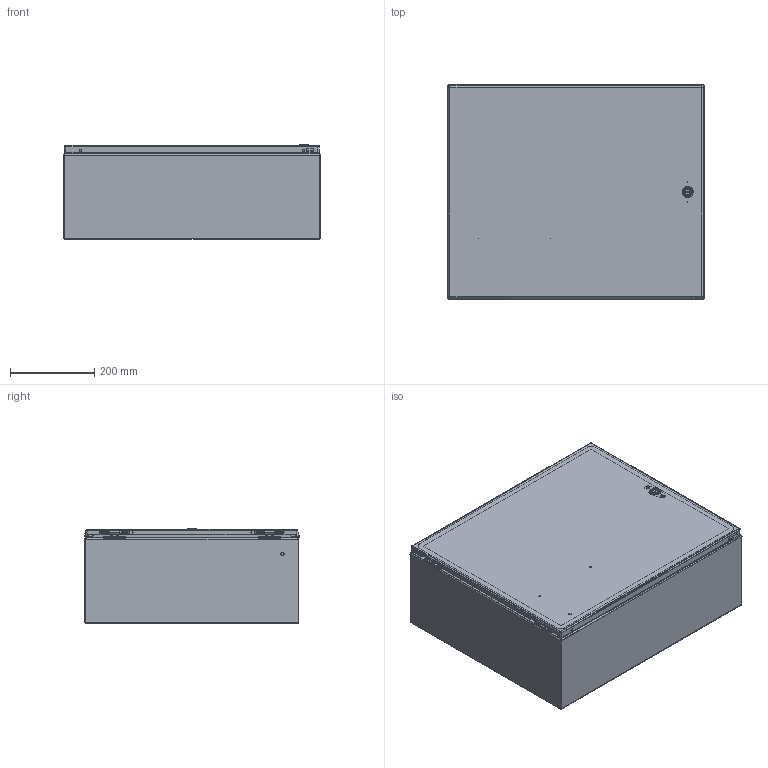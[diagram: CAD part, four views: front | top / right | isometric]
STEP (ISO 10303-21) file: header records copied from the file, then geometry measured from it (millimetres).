
FILE_DESCRIPTION (( 'STEP AP203' ), '1' );
FILE_NAME ('csd20248lg.STEP', '2012-05-09T17:05:13', ( 'User' ), ( 'Pentair Inc' ), 'SwSTEP 2.0', 'SolidWorks 2010', '' );
FILE_SCHEMA (( 'CONFIG_CONTROL_DESIGN' ));
Length unit declared in the file: inch
Products named in the file (27): 87929769_Installed on Pin; 64101001; 64201001; 87541994_Installed Height; 87541995; 64202001; 64210001; 64203001; 87927840_87927840; 87932903; 64138001; 87938001; 87543027; 89076399; 89076193; 89056623; 87929507; 87929767; csd20248lg; 87934528; 87934331_default; 23271001_After Weld; 87937927_assy; 87937967_weldment; 87936128; 99401225; 87931362_87931362
Assembly tree (38 placements, depth 4):
  csd20248lg
    87934528
      23271001_After Weld  x4
      87934331_default
      99401225
    87543027  x2
    87937927_assy
      87937967_weldment
        87931362_87931362  x4
        87936128
        99401225
      87938001
      87932903  x2
      64138001  x2
      64101001
        64201001
        87541994_Installed Height
        64210001
        64203001
        64202001
        87927840_87927840
        87541995
    87929507  x2
      87929767
      87929769_Installed on Pin
    89076399  x2
      89076193
      89056623
Bounding box: 609.6 x 508.73 x 223.9 mm (x, y, z)
Volume: 1616861.9 mm3; surface area: 2456078.4 mm2
Topology: 35 solids, 35 shells, 1689 faces, 4125 edges, 2490 vertices
Faces by surface type: plane 652, cylinder 547, bspline 288, torus 106, cone 88, sphere 8
Entity records: 46223 total; most frequent: CARTESIAN_POINT 16302, ORIENTED_EDGE 5874, DIRECTION 5117, EDGE_CURVE 2937, AXIS2_PLACEMENT_3D 1833, VERTEX_POINT 1802, VECTOR 1451, LINE 1451
